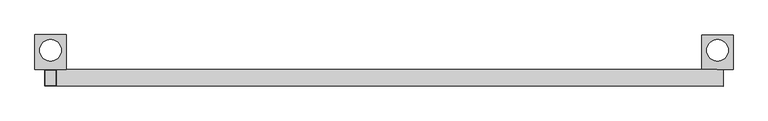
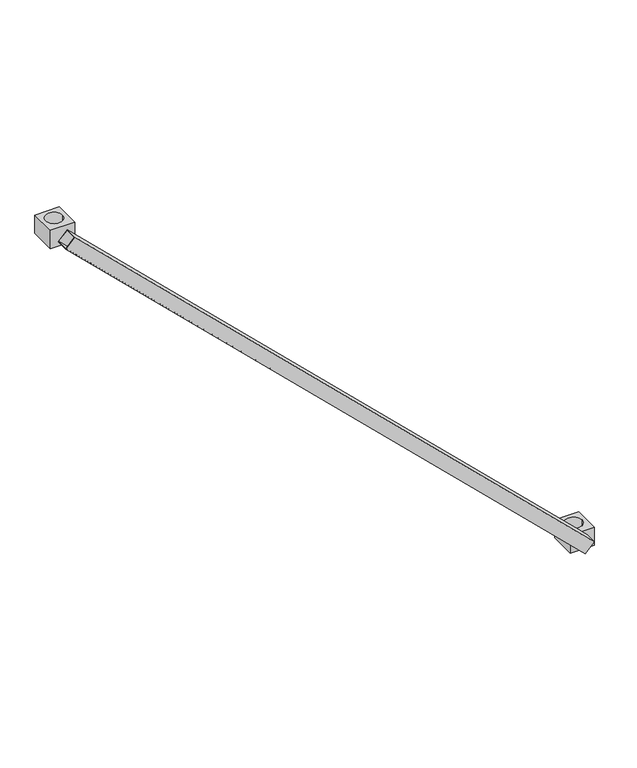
"""IFC4 building model written with IfcOpenShell, lengths in millimetres: proxy geometry, AK_アルバトロスAK伸縮斜材 : H1800×L1500."""

from ifc_helpers import new_model, si_unit, point, frame, frame_2d, origin, place, context, project, spatial, polyline, circle_curve, trimmed, segment, composite_curve, outline, extrude, source, transform, mapped, element, save


def generic_models_8123577b(model_context):
    return source(origin(), model_context, "Body", "SweptSolid", [
        extrude(outline(polyline([(0.0, 0.0), (0.0, -38.0), (-37.9999999, -38.0), (-37.9999999, 0.0), (0.0, 0.0)]), holes=[polyline([(-2.0, -2.0), (-36.0, -2.0), (-36.0, -36.0), (-2.0, -36.0), (-2.0, -2.0)])]), frame((13.2306306, 19.0, 13.6363636), z_axis=(-0.7177033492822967, 0.0, 0.696348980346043), x_axis=(0.696348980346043, 0.0, 0.7177033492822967)), (0.0, 0.0, 1.0), 2090.0),
        extrude(outline(polyline([(35.0, 96.8842695), (35.0, 19.0), (-35.0, 19.0), (-35.0, 96.8842695), (35.0, 96.8842695)]), holes=[composite_curve([segment(trimmed(circle_curve(frame_2d((0.0, 61.8842695)), 24.3), [point((24.3, 61.8842695))], [point((-24.3, 61.8842695))], True, "CARTESIAN"), True, "CONTINUOUS"), segment(trimmed(circle_curve(frame_2d((0.0, 61.8842695)), 24.3), [point((-24.3, 61.8842695))], [point((24.3, 61.8842695))], True, "CARTESIAN"), True, "CONTINUOUS")], self_intersect=False)]), frame((0.0, 0.0, -27.7559086), z_axis=(0.0, 0.0, 1.0), x_axis=(1.0, 0.0, 0.0)), (0.0, 0.0, 1.0), 55.5118171),
        extrude(outline(polyline([(-1465.0, 19.0), (-1535.0, 19.0), (-1535.0, 96.8842695), (-1465.0, 96.8842695), (-1465.0, 19.0)]), holes=[composite_curve([segment(trimmed(circle_curve(frame_2d((-1500.0, 61.8842695)), 24.3), [point((-1475.7, 61.8842695))], [point((-1524.3, 61.8842695))], True, "CARTESIAN"), True, "CONTINUOUS"), segment(trimmed(circle_curve(frame_2d((-1500.0, 61.8842695)), 24.3), [point((-1524.3, 61.8842695))], [point((-1475.7, 61.8842695))], True, "CARTESIAN"), True, "CONTINUOUS")], self_intersect=False)]), frame((0.0, 0.0, 1427.6134604), z_axis=(0.0, 0.0, 1.0), x_axis=(1.0, 0.0, 0.0)), (0.0, 0.0, 1.0), 55.5118171),
    ])


if __name__ == "__main__":
    model = new_model("IFC4")
    model_context = context("Model", 3, world=origin())
    ifc_project = project(units=[si_unit("LENGTHUNIT", "METRE", prefix="MILLI")], contexts=[model_context])
    site = spatial("IfcSite", under=ifc_project)
    building = spatial("IfcBuilding", under=site)
    placement = place(None, origin())
    generic_models_shape = generic_models_8123577b(model_context)
    element("IfcBuildingElementProxy", 1, Name="AK_アルバトロスAK伸縮斜材 : H1800×L1500", ObjectType="AK_アルバトロスAK伸縮斜材 : H1800×L1500", at=placement, inside=building, context=model_context, shape_type="MappedRepresentation", body=[
        mapped(generic_models_shape, transform((0.0, 0.0, 0.0), x_axis=(1.0, 0.0, 0.0), y_axis=(0.0, 1.0, 0.0), z_axis=(0.0, 0.0, 1.0))),
    ])
    save(model, "model.ifc")
